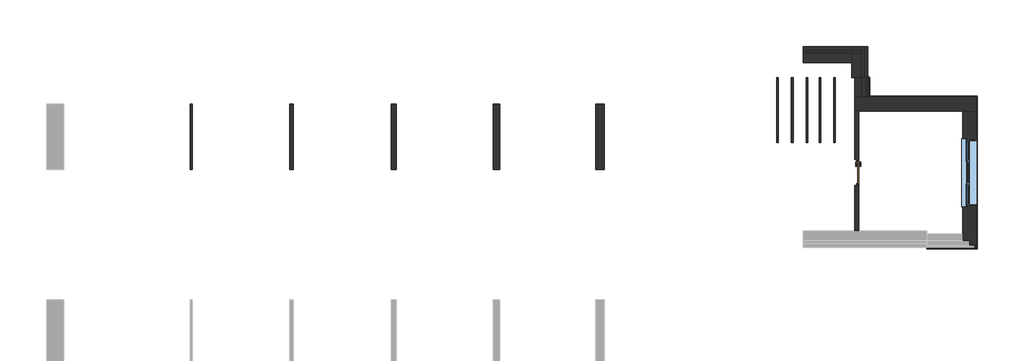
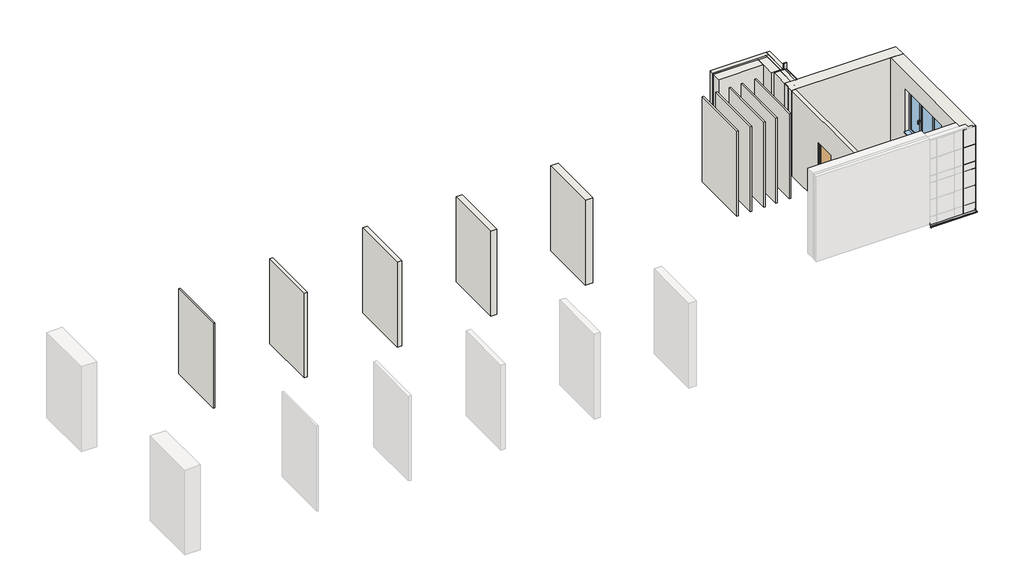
# One storey, part 2 of 2: 16 walls, 6 proxies, 2 windows, 1 door.
"""IFC4 building model written with IfcOpenShell, lengths in millimetres."""

from ifc_helpers import new_model, si_unit, frame, origin, origin_with_axes, place, context, project, spatial, polyline, outline, extrude, faceted_brep, transform, mapped, element, save
from components import generic_models_62172133, generic_models_8cf6980d, generic_models_e644d43c, generic_models_0f7cf230, door_2db64911, window_4d62aef1

model = new_model("IFC4")

# Units and contexts
model_context = context("Model", 3, world=origin())
ifc_project = project(units=[si_unit("LENGTHUNIT", "METRE", prefix="MILLI")], contexts=[model_context])

# Site, building, storey
site = spatial("IfcSite", under=ifc_project)
building = spatial("IfcBuilding", under=site)
storey = spatial("IfcBuildingStorey", under=building, Name="Этаж 1", Elevation=0.0)

# Proxies
placement = place(None, origin())
element("IfcBuildingElementProxy", 1, Name="Откосы_вентфасада : Тип 1", ObjectType="Откосы_вентфасада : Тип 1", at=placement, inside=storey, context=model_context, shape_type="SweptSolid", body=[
    extrude(outline(polyline([(40692.721519, 851.7721519), (40664.721519, 851.7721519), (40664.721519, 826.7721519), (40670.721519, 826.7721519), (40670.721519, 824.7721519), (40662.721519, 824.7721519), (40662.721519, 853.7721519), (40690.721519, 853.7721519), (40690.721519, 879.7721519), (40457.721519, 879.7721519), (40457.721519, 881.7721519), (40692.721519, 881.7721519), (40692.721519, 851.7721519)])), frame((0.0, 0.0, 900.0), z_axis=(0.0, 0.0, 1.0), x_axis=(1.0, 0.0, 0.0)), (0.0, 0.0, 1.0), 1435.0),
    extrude(outline(polyline([(40692.721519, 2891.7721519), (40692.721519, 2861.7721519), (40457.721519, 2861.7721519), (40457.721519, 2863.7721519), (40690.721519, 2863.7721519), (40690.721519, 2889.7721519), (40662.721519, 2889.7721519), (40662.721519, 2918.7721519), (40670.721519, 2918.7721519), (40670.721519, 2916.7721519), (40664.721519, 2916.7721519), (40664.721519, 2891.7721519), (40692.721519, 2891.7721519)])), frame((0.0, 0.0, 900.0), z_axis=(0.0, 0.0, 1.0), x_axis=(1.0, 0.0, 0.0)), (0.0, 0.0, 1.0), 1435.0),
    extrude(outline(polyline([(2365.0, 40692.721519), (2365.0, 40652.721519), (2363.0, 40652.721519), (2363.0, 40690.721519), (2337.0, 40690.721519), (2337.0, 40457.721519), (2335.0, 40457.721519), (2335.0, 40692.721519), (2365.0, 40692.721519)])), frame((0.0, 841.7721519, 0.0), z_axis=(0.0, 1.0, 0.0), x_axis=(0.0, 0.0, 1.0)), (0.0, 0.0, 1.0), 2060.0),
])
element("IfcBuildingElementProxy", 2, Name="Примыкание к другой фасадной системе", ObjectType="Примыкание к другой фасадной системе", at=placement, inside=storey, context=model_context, shape_type="SweptSolid", body=[
    extrude(outline(polyline([(37277.721519, 4811.7721519), (37377.721519, 4811.7721519), (37377.721519, 4791.7721519), (37277.721519, 4791.7721519), (37277.721519, 4811.7721519)])), frame((0.0, 0.0, -70.0), z_axis=(0.0, 0.0, 1.0), x_axis=(1.0, 0.0, 0.0)), (0.0, 0.0, 1.0), 3280.0),
])
generic_models_shape = generic_models_62172133(model_context)
element("IfcBuildingElementProxy", 3, Name="Слив_цоколя : Тип", ObjectType="Слив_цоколя : Тип", at=placement, inside=storey, context=model_context, shape_type="MappedRepresentation", body=[
    mapped(generic_models_shape, transform((37167.721519, 4611.8966005, -5.3480111), x_axis=(0.0, -1.0, 0.0), y_axis=(1.0, 0.0, 0.0), z_axis=(0.0, 0.0, 1.0))),
])
generic_models_2_shape = generic_models_8cf6980d(model_context)
element("IfcBuildingElementProxy", 4, Name="Слив_цоколя : Тип", ObjectType="Слив_цоколя : Тип", at=placement, inside=storey, context=model_context, shape_type="MappedRepresentation", body=[
    mapped(generic_models_2_shape, transform((38901.4446493, 3971.7721519, -5.3948248), x_axis=(1.0, 0.0, 0.0), y_axis=(0.0, 1.0, 0.0), z_axis=(0.0, 0.0, 1.0))),
])
generic_models_3_shape = generic_models_e644d43c(model_context)
element("IfcBuildingElementProxy", 5, Name="Слив_цоколя : Тип", ObjectType="Слив_цоколя : Тип", at=placement, inside=storey, context=model_context, shape_type="MappedRepresentation", body=[
    mapped(generic_models_3_shape, transform((40467.721519, 1996.9755398, -5.3948248), x_axis=(0.0, -1.0, 0.0), y_axis=(1.0, 0.0, 0.0), z_axis=(0.0, 0.0, 1.0))),
])
generic_models_4_shape = generic_models_0f7cf230(model_context)
element("IfcBuildingElementProxy", 6, Name="Слив_цоколя : Тип", ObjectType="Слив_цоколя : Тип", at=placement, inside=storey, context=model_context, shape_type="MappedRepresentation", body=[
    mapped(generic_models_4_shape, transform((40041.1884335, -228.2278481, -5.3480111), x_axis=(-1.0, 0.0, 0.0), y_axis=(0.0, -1.0, 0.0), z_axis=(0.0, 0.0, 1.0))),
])

# Door
door_shape = door_2db64911(model_context)
element("IfcDoor", 7, ObjectType="Дверь однопольная : дерев.внутр.глух 8х21 Л", at=placement, inside=storey, context=model_context, shape_type="MappedRepresentation", body=[
    mapped(door_shape, transform((37017.721519, 1871.7721519, 0.0), x_axis=(0.0, -1.0, 0.0), y_axis=(1.0, 0.0, 0.0), z_axis=(0.0, 0.0, 1.0))),
])

# Walls
element("IfcWall", 8, ObjectType="Утеплитель 50мм (ЭКОВЕР ВЕНТ-ФАСАД)", at=placement, inside=storey, context=model_context, shape_type="SweptSolid", body=[
    extrude(outline(polyline([(16592.721519, 1971.7721519), (16592.721519, 3971.7721519), (16642.721519, 3971.7721519), (16642.721519, 1971.7721519), (16592.721519, 1971.7721519)])), origin_with_axes(), (0.0, 0.0, 1.0), 3000.0),
])
element("IfcWall", 9, ObjectType="Утеплитель 100мм (ЭКОВЕР ВЕНТ-ФАСАД)", at=placement, inside=storey, context=model_context, shape_type="SweptSolid", body=[
    extrude(outline(polyline([(19642.721519, 1971.7721519), (19642.721519, 3971.7721519), (19742.721519, 3971.7721519), (19742.721519, 1971.7721519), (19642.721519, 1971.7721519)])), origin_with_axes(), (0.0, 0.0, 1.0), 3000.0),
])
element("IfcWall", 10, ObjectType="Утеплитель 150мм (ЭКОВЕР ВЕНТ-ФАСАД)", at=placement, inside=storey, context=model_context, shape_type="SweptSolid", body=[
    extrude(outline(polyline([(22742.721519, 1971.7721519), (22742.721519, 3971.7721519), (22892.721519, 3971.7721519), (22892.721519, 1971.7721519), (22742.721519, 1971.7721519)])), origin_with_axes(), (0.0, 0.0, 1.0), 3000.0),
])
element("IfcWall", 11, ObjectType="Утеплитель 200мм (ЭКОВЕР ВЕНТ-ФАСАД)", at=placement, inside=storey, context=model_context, shape_type="SweptSolid", body=[
    extrude(outline(polyline([(25867.721519, 1971.7721519), (25867.721519, 3971.7721519), (26067.721519, 3971.7721519), (26067.721519, 1971.7721519), (25867.721519, 1971.7721519)])), origin_with_axes(), (0.0, 0.0, 1.0), 3000.0),
])
element("IfcWall", 12, ObjectType="Утеплитель 250мм (ЭКОВЕР ВЕНТ-ФАСАД)", at=placement, inside=storey, context=model_context, shape_type="SweptSolid", body=[
    extrude(outline(polyline([(29017.721519, 1971.7721519), (29017.721519, 3971.7721519), (29267.721519, 3971.7721519), (29267.721519, 1971.7721519), (29017.721519, 1971.7721519)])), origin_with_axes(), (0.0, 0.0, 1.0), 3000.0),
])
element("IfcWall", 13, ObjectType="ВЕНТ-ФАСАД 420мм (Изоляция ЭКОВЕР Вент-фасад 150мм)", at=placement, inside=storey, context=model_context, shape_type="Brep", body=[
    faceted_brep([(40677.721519, 3761.7721519, 3000.0), (40257.721519, 3761.7721519, 3000.0), (37077.721519, 3761.7721519, 3000.0), (36957.721519, 3761.7721519, 3000.0), (36957.721519, 3761.7721519, 0.0), (37077.721519, 3761.7721519, 0.0), (37327.7793851, 3761.7721519, 0.0), (37327.7793851, 3761.7721519, 39.4677331), (40177.721519, 3761.7721519, 39.4677331), (40257.721519, 3761.7721519, 39.4677331), (40677.721519, 3761.7721519, 39.4677331), (36957.721519, 4181.7721519, 3000.0), (37377.721519, 4181.7721519, 3000.0), (40677.721519, 4181.7721519, 3000.0), (40677.721519, 4181.7721519, 39.4677331), (40177.721519, 4181.7721519, 39.4740252), (37377.7215189, 4181.7721519, 39.5092614), (36957.721519, 4181.7721519, 39.5145468), (36957.721519, 4131.7721519, 0.0), (37327.7793851, 4131.7721519, 0.0), (36957.721519, 4131.7721519, 39.5145468), (37327.7793851, 4131.7721519, 39.5145468)], [[[0, 1, 2, 3, 4, 5, 6, 7, 8, 9, 10]], [[11, 12, 13, 14, 15, 16, 17]], [[4, 18, 19, 6, 5]], [[3, 2, 1, 0, 13, 12, 11]], [[4, 3, 11, 17, 20, 18]], [[18, 20, 21, 19]], [[20, 17, 16, 15, 14, 10, 9, 8, 7, 21]], [[13, 0, 10, 14]], [[7, 6, 19, 21]]]),
])
element("IfcWall", 14, ObjectType="ВЕНТ-ФАСАД 420мм (Изоляция ЭКОВЕР Вент-фасад 150мм)", at=placement, inside=storey, context=model_context, shape_type="Brep", body=[
    faceted_brep([(40257.721519, -438.2278481, 3000.0), (40257.721519, -18.2278481, 3000.0), (40257.721519, 3761.7721519, 3000.0), (40257.721519, 3761.7721519, 39.4677331), (40257.721519, -18.2278481, 39.4677331), (40257.721519, -438.2278481, 39.4677331), (40257.721519, 821.7721519, 900.0), (40257.721519, 2921.7721519, 900.0), (40257.721519, 2921.7721519, 2400.0), (40257.721519, 821.7721519, 2400.0), (40677.721519, 3761.7721519, 3000.0), (40677.721519, -438.2278481, 3000.0), (40677.721519, -438.2278481, 39.4677331), (40677.721519, 3761.7721519, 39.4677331), (40677.721519, 841.7721519, 2380.0), (40677.721519, 2901.7721519, 2380.0), (40677.721519, 2901.7721519, 900.0), (40677.721519, 841.7721519, 900.0), (40457.721519, 841.7721519, 2380.0), (40457.721519, 2901.7721519, 2380.0), (40457.721519, 2901.7721519, 900.0), (40457.721519, 2921.7721519, 900.0), (40457.721519, 821.7721519, 900.0), (40457.721519, 841.7721519, 900.0), (40457.721519, 821.7721519, 2400.0), (40457.721519, 2921.7721519, 2400.0)], [[[0, 1, 2, 3, 4, 5], [6, 7, 8, 9]], [[10, 11, 12, 13], [14, 15, 16, 17]], [[2, 1, 0, 11, 10]], [[11, 0, 5, 12]], [[2, 10, 13, 3]], [[14, 18, 19, 15]], [[15, 19, 20, 16]], [[16, 20, 21, 7, 6, 22, 23, 17]], [[18, 14, 17, 23]], [[19, 18, 23, 22, 24, 25, 21, 20]], [[7, 21, 25, 8]], [[22, 6, 9, 24]], [[25, 24, 9, 8]], [[5, 4, 3, 13, 12]]]),
])
element("IfcWall", 15, ObjectType="Газобетон 300 Ут 10 Кирпич 120 (520)", at=placement, inside=storey, context=model_context, shape_type="Brep", body=[
    faceted_brep([(37157.721519, 4791.7721519, 50.0), (37237.721519, 4791.7721519, 50.0), (37237.721519, 4791.7721519, 3000.0), (37237.721519, 4791.7721519, 3050.0), (37157.721519, 4791.7721519, 3050.0), (37157.721519, 4791.7721519, 3000.0), (37157.721519, 5621.7721519, 50.0), (37237.721519, 5621.7721519, 50.0), (37237.721519, 5621.7721519, 3050.0), (37157.721519, 5621.7721519, 3050.0), (37237.721519, 5621.7721519, 3000.0), (37157.721519, 5621.7721519, 3000.0)], [[[0, 1, 2, 3, 4, 5]], [[1, 0, 6, 7]], [[4, 3, 8, 9]], [[2, 1, 7, 10, 8, 3]], [[0, 5, 4, 9, 11, 6]], [[7, 6, 11, 9, 8, 10]]]),
    faceted_brep([(37277.721519, 4791.7721519, 50.0), (37277.721519, 4791.7721519, 3000.0), (37277.721519, 4791.7721519, 3050.0), (37237.721519, 4791.7721519, 3050.0), (37237.721519, 4791.7721519, 3000.0), (37237.721519, 4791.7721519, 50.0), (37357.721519, 5741.7721519, 3000.0), (37357.721519, 5741.7721519, 50.0), (37237.721519, 5741.7721519, 50.0), (37237.721519, 5741.7721519, 3000.0), (37237.721519, 5741.7721519, 3050.0), (37357.721519, 5741.7721519, 3050.0), (37357.721519, 4811.7721519, 3050.0), (37357.721519, 4811.7721519, 3000.0), (37357.721519, 4811.7721519, 50.0), (37277.721519, 4811.7721519, 50.0), (37277.721519, 4811.7721519, 3050.0), (37277.721519, 4811.7721519, 3000.0)], [[[0, 1, 2, 3, 4, 5]], [[6, 7, 8, 9, 10, 11]], [[7, 6, 11, 12, 13, 14]], [[8, 7, 14, 15, 0, 5]], [[12, 11, 10, 3, 2, 16]], [[14, 13, 12, 16, 17, 15]], [[1, 0, 15, 17, 16, 2]], [[9, 8, 5, 4, 3, 10]]]),
    faceted_brep([(36857.721519, 4791.7721519, 3000.0), (36857.721519, 4791.7721519, 50.0), (37157.721519, 4791.7721519, 50.0), (37157.721519, 4791.7721519, 3000.0), (37157.721519, 4791.7721519, 3050.0), (36857.721519, 4791.7721519, 3050.0), (36857.721519, 5541.7721519, 50.0), (36857.721519, 5241.7721519, 50.0), (36857.721519, 5241.7721519, 3050.0), (36857.721519, 5541.7721519, 3050.0), (36857.721519, 5541.7721519, 3000.0), (37157.721519, 5541.7721519, 3050.0), (37157.721519, 5541.7721519, 3000.0), (37157.721519, 5541.7721519, 50.0)], [[[0, 1, 2, 3, 4, 5]], [[6, 7, 1, 0, 5, 8, 9, 10]], [[6, 10, 9, 11, 12, 13]], [[7, 6, 13, 2, 1]], [[8, 5, 4, 11, 9]], [[3, 2, 13, 12, 11, 4]]]),
])
element("IfcWall", 16, ObjectType="Кирпич 120", at=placement, inside=storey, context=model_context, shape_type="Brep", body=[
    faceted_brep([(36957.721519, 3761.7721519, 0.0), (36957.721519, 3761.7721519, 50.0), (36957.721519, 3761.7721519, 3000.0), (37077.721519, 3761.7721519, 3000.0), (37077.721519, 3761.7721519, 50.0), (37077.721519, 3761.7721519, 0.0), (36957.721519, 2271.7721519, 0.0), (37077.721519, 2271.7721519, 0.0), (36957.721519, 2271.7721519, 50.0), (37077.721519, 2271.7721519, 50.0), (37077.721519, 2271.7721519, 2100.0), (36957.721519, 2271.7721519, 2100.0), (36957.721519, 1471.7721519, 0.0), (36957.721519, 1471.7721519, 50.0), (36957.721519, 1471.7721519, 2100.0), (37077.721519, 1471.7721519, 2100.0), (37077.721519, 1471.7721519, 50.0), (37077.721519, 1471.7721519, 0.0), (36957.721519, 81.7721519, 0.0), (37077.721519, 81.7721519, 0.0), (36957.721519, 81.7721519, 50.0), (37077.721519, 81.7721519, 50.0), (37077.721519, 81.7721519, 3000.0), (36957.721519, 81.7721519, 3000.0)], [[[0, 1, 2, 3, 4, 5]], [[6, 0, 5, 7]], [[8, 6, 7, 9, 10, 11]], [[12, 13, 14, 15, 16, 17]], [[18, 12, 17, 19]], [[20, 18, 19, 21, 22, 23]], [[21, 19, 17, 16, 15, 10, 9, 7, 5, 4, 3, 22]], [[2, 23, 22, 3]], [[14, 11, 10, 15]], [[13, 12, 18, 20, 23, 2, 1, 0, 6, 8, 11, 14]]]),
])
element("IfcWall", 17, ObjectType="Газобетон 300 Ут 10 Кирпич 120 (520)", at=placement, inside=storey, context=model_context, shape_type="SweptSolid", body=[
    extrude(outline(polyline([(35367.721519, 5741.7721519), (37237.721519, 5741.7721519), (37237.721519, 5621.7721519), (35367.721519, 5621.7721519), (35367.721519, 5741.7721519)])), frame((0.0, 0.0, 50.0), z_axis=(0.0, 0.0, 1.0), x_axis=(1.0, 0.0, 0.0)), (0.0, 0.0, 1.0), 3000.0),
    extrude(outline(polyline([(36857.721519, 5241.7721519), (35367.721519, 5241.7721519), (35367.721519, 5541.7721519), (36857.721519, 5541.7721519), (36857.721519, 5241.7721519)])), frame((0.0, 0.0, 50.0), z_axis=(0.0, 0.0, 1.0), x_axis=(1.0, 0.0, 0.0)), (0.0, 0.0, 1.0), 3000.0),
    extrude(outline(polyline([(37157.721519, 5621.7721519), (37157.721519, 5541.7721519), (35367.721519, 5541.7721519), (35367.721519, 5621.7721519), (37157.721519, 5621.7721519)])), frame((0.0, 0.0, 50.0), z_axis=(0.0, 0.0, 1.0), x_axis=(1.0, 0.0, 0.0)), (0.0, 0.0, 1.0), 3000.0),
])
element("IfcWall", 18, ObjectType="ВЕНТ-ФАСАД 420мм (Изоляция ЭКОВЕР Вент-фасад 150мм)", at=placement, inside=storey, context=model_context, shape_type="SolidModel", body=[
    faceted_brep([(37307.721519, 4791.7721519, 39.5145468), (37357.721519, 4791.7721519, 39.5145468), (37357.721519, 4161.7721519, 39.5145468), (37307.721519, 4161.7721519, 39.5145468), (37357.721519, 4791.7721519, 50.0), (37307.721519, 4791.7721519, 50.0), (37307.721519, 4791.7721519, 3000.0), (37357.721519, 4791.7721519, 3000.0), (37307.721519, 4161.7721519, 3000.0), (37357.721519, 4161.7721519, 3000.0), (37307.721519, 4161.7721519, 50.0), (37357.721519, 4161.7721519, 50.0)], [[[0, 1, 2, 3]], [[4, 1, 0, 5, 6, 7]], [[8, 9, 7, 6]], [[5, 0, 3, 10, 8, 6]], [[1, 4, 7, 9, 11, 2]], [[10, 3, 2, 11, 9, 8]]]),
    faceted_brep([(36957.721519, 4791.7721519, 39.5145468), (36957.721519, 4791.7721519, 50.0), (36957.721519, 4791.7721519, 3000.0), (37157.721519, 4791.7721519, 3000.0), (37157.721519, 4791.7721519, 50.0), (37157.721519, 4791.7721519, 39.5145468), (36957.721519, 3961.7721519, 39.5145468), (36957.721519, 3961.7721519, 50.0), (36957.721519, 3961.7721519, 3000.0), (37157.721519, 3961.7721519, 3000.0), (37157.721519, 3961.7721519, 39.5145468), (37157.721519, 3961.7721519, 50.0)], [[[0, 1, 2, 3, 4, 5]], [[1, 0, 6, 7, 8, 2]], [[2, 8, 9, 3]], [[0, 5, 10, 6]], [[5, 4, 3, 9, 11, 10]], [[7, 6, 10, 11, 9, 8]]]),
    faceted_brep([(37157.721519, 4791.7721519, 39.5145468), (37307.721519, 4791.7721519, 39.5145468), (37307.721519, 4111.7721519, 39.5145468), (37157.721519, 4111.7721519, 39.5145468), (37307.721519, 4791.7721519, 50.0), (37157.721519, 4791.7721519, 50.0), (37157.721519, 4791.7721519, 3000.0), (37307.721519, 4791.7721519, 3000.0), (37157.721519, 4111.7721519, 3000.0), (37307.721519, 4111.7721519, 3000.0), (37307.721519, 4111.7721519, 50.0), (37157.721519, 4111.7721519, 50.0)], [[[0, 1, 2, 3]], [[4, 1, 0, 5, 6, 7]], [[8, 9, 7, 6]], [[1, 4, 7, 9, 10, 2]], [[5, 0, 3, 11, 8, 6]], [[11, 3, 2, 10, 9, 8]]]),
    extrude(outline(polyline([(37377.721519, 4181.7721519), (37357.721519, 4181.7721519), (37357.721519, 4791.7721519), (37377.721519, 4791.7721519), (37377.721519, 4181.7721519)])), frame((0.0, 0.0, 2375.0), z_axis=(0.0, 0.0, 1.0), x_axis=(1.0, 0.0, 0.0)), (0.0, 0.0, 1.0), 625.0),
    extrude(outline(polyline([(37377.721519, 4181.7721519), (37357.721519, 4181.7721519), (37357.721519, 4791.7721519), (37377.721519, 4791.7721519), (37377.721519, 4181.7721519)])), frame((0.0, 0.0, 330.0), z_axis=(0.0, 0.0, 1.0), x_axis=(1.0, 0.0, 0.0)), (0.0, 0.0, 1.0), 590.0),
    extrude(outline(polyline([(37377.721519, 4181.7721519), (37357.721519, 4181.7721519), (37357.721519, 4791.7721519), (37377.721519, 4791.7721519), (37377.721519, 4181.7721519)])), frame((0.0, 0.0, 930.0), z_axis=(0.0, 0.0, 1.0), x_axis=(1.0, 0.0, 0.0)), (0.0, 0.0, 1.0), 590.0),
    extrude(outline(polyline([(37377.721519, 4181.7721519), (37357.721519, 4181.7721519), (37357.721519, 4791.7721519), (37377.721519, 4791.7721519), (37377.721519, 4181.7721519)])), frame((0.0, 0.0, 1775.0), z_axis=(0.0, 0.0, 1.0), x_axis=(1.0, 0.0, 0.0)), (0.0, 0.0, 1.0), 590.0),
    extrude(outline(polyline([(37377.721519, 4181.7721519), (37357.721519, 4181.7721519), (37357.721519, 4791.7721519), (37377.721519, 4791.7721519), (37377.721519, 4181.7721519)])), frame((0.0, 0.0, 1530.0), z_axis=(0.0, 0.0, 1.0), x_axis=(1.0, 0.0, 0.0)), (0.0, 0.0, 1.0), 235.0),
    faceted_brep([(37357.721519, 4181.7721519, 320.0), (37377.721519, 4181.7721519, 320.0), (37377.721519, 4791.7721519, 320.0), (37357.721519, 4791.7721519, 320.0), (37377.721519, 4181.7721519, 39.5145468), (37377.721519, 4181.7721519, 50.0), (37357.721519, 4181.7721519, 50.0), (37357.721519, 4181.7721519, 39.5145468), (37357.721519, 4791.7721519, 39.5145468), (37377.721519, 4791.7721519, 39.5145468), (37357.721519, 4791.7721519, 50.0), (37377.721519, 4791.7721519, 50.0)], [[[0, 1, 2, 3]], [[4, 5, 1, 0, 6, 7]], [[4, 7, 8, 9]], [[9, 8, 10, 3, 2, 11]], [[5, 4, 9, 11, 2, 1]], [[7, 6, 0, 3, 10, 8]]]),
])
element("IfcWall", 19, ObjectType="Утеплитель 50мм (ЭКОВЕР ВЕНТ-ФАСАД)", at=placement, inside=storey, context=model_context, shape_type="SweptSolid", body=[
    extrude(outline(polyline([(34560.8018909, 2791.7721519), (34560.8018909, 4791.7721519), (34610.8018909, 4791.7721519), (34610.8018909, 2791.7721519), (34560.8018909, 2791.7721519)])), origin_with_axes(), (0.0, 0.0, 1.0), 3000.0),
])
element("IfcWall", 20, ObjectType="Утеплитель 50мм (ЭКОВЕР ВЕНТ-ФАСАД  70)", at=placement, inside=storey, context=model_context, shape_type="SweptSolid", body=[
    extrude(outline(polyline([(35010.8018909, 2791.7721519), (35010.8018909, 4791.7721519), (35060.8018909, 4791.7721519), (35060.8018909, 2791.7721519), (35010.8018909, 2791.7721519)])), origin_with_axes(), (0.0, 0.0, 1.0), 3000.0),
])
element("IfcWall", 21, ObjectType="Утеплитель 50мм (ЭКОВЕР ВЕНТ-ФАСАД  80)", at=placement, inside=storey, context=model_context, shape_type="SweptSolid", body=[
    extrude(outline(polyline([(35460.8018909, 2791.7721519), (35460.8018909, 4791.7721519), (35510.8018909, 4791.7721519), (35510.8018909, 2791.7721519), (35460.8018909, 2791.7721519)])), origin_with_axes(), (0.0, 0.0, 1.0), 3000.0),
])
element("IfcWall", 22, ObjectType="Утеплитель 50мм (ЭКОВЕР ВЕНТ-ФАСАД  90)", at=placement, inside=storey, context=model_context, shape_type="SweptSolid", body=[
    extrude(outline(polyline([(35860.8018909, 2791.7721519), (35860.8018909, 4791.7721519), (35910.8018909, 4791.7721519), (35910.8018909, 2791.7721519), (35860.8018909, 2791.7721519)])), origin_with_axes(), (0.0, 0.0, 1.0), 3000.0),
])
element("IfcWall", 23, ObjectType="Утеплитель 50мм (ЭКОВЕР ВЕНТ-ФАСАД  120)", at=placement, inside=storey, context=model_context, shape_type="SweptSolid", body=[
    extrude(outline(polyline([(36310.8018909, 2791.7721519), (36310.8018909, 4791.7721519), (36360.8018909, 4791.7721519), (36360.8018909, 2791.7721519), (36310.8018909, 2791.7721519)])), origin_with_axes(), (0.0, 0.0, 1.0), 3000.0),
])

# Windows
element("IfcWindow", 24, ObjectType="Окно_3створки : 2060х1460 (створка и глухое)", at=placement, inside=storey, context=model_context, shape_type="SolidModel", body=[
    extrude(outline(polyline([(40407.721519, 1568.4388186), (40407.721519, 2175.1054852), (40437.721519, 2175.1054852), (40437.721519, 1568.4388186), (40407.721519, 1568.4388186)])), frame((0.0, 0.0, 980.0), z_axis=(0.0, 0.0, 1.0), x_axis=(1.0, 0.0, 0.0)), (0.0, 0.0, 1.0), 1340.0),
    extrude(outline(polyline([(40387.721519, 951.7721519), (40387.721519, 1438.4388186), (40417.721519, 1438.4388186), (40417.721519, 951.7721519), (40387.721519, 951.7721519)])), frame((0.0, 0.0, 1030.0), z_axis=(0.0, 0.0, 1.0), x_axis=(1.0, 0.0, 0.0)), (0.0, 0.0, 1.0), 1240.0),
    faceted_brep([(40387.721519, 1528.4388186, 940.0), (40387.721519, 1528.4388186, 2360.0), (40387.721519, 861.7721519, 2360.0), (40387.721519, 861.7721519, 940.0), (40387.721519, 901.7721519, 980.0), (40387.721519, 901.7721519, 2320.0), (40387.721519, 1488.4388186, 2320.0), (40387.721519, 1488.4388186, 980.0), (40367.721519, 1528.4388186, 2360.0), (40367.721519, 1528.4388186, 940.0), (40367.721519, 861.7721519, 940.0), (40367.721519, 861.7721519, 2360.0), (40367.721519, 1438.4388186, 1030.0), (40367.721519, 1438.4388186, 2270.0), (40367.721519, 951.7721519, 2270.0), (40367.721519, 951.7721519, 1030.0), (40437.721519, 1438.4388186, 1030.0), (40437.721519, 951.7721519, 1030.0), (40437.721519, 951.7721519, 2270.0), (40437.721519, 1438.4388186, 2270.0), (40437.721519, 1488.4388186, 980.0), (40437.721519, 1488.4388186, 2320.0), (40437.721519, 901.7721519, 2320.0), (40437.721519, 901.7721519, 980.0)], [[[0, 1, 2, 3], [4, 5, 6, 7]], [[8, 1, 0, 9]], [[10, 11, 8, 9], [12, 13, 14, 15]], [[9, 0, 3, 10]], [[16, 12, 15, 17]], [[10, 3, 2, 11]], [[17, 15, 14, 18]], [[11, 2, 1, 8]], [[18, 14, 13, 19]], [[20, 21, 22, 23], [17, 18, 19, 16]], [[19, 13, 12, 16]], [[7, 20, 23, 4]], [[4, 23, 22, 5]], [[5, 22, 21, 6]], [[6, 21, 20, 7]]]),
    faceted_brep([(40354.721519, 1458.4388186, 1687.5), (40354.721519, 1488.4388186, 1687.5), (40354.721519, 1488.4388186, 1612.5), (40354.721519, 1458.4388186, 1612.5), (40354.721519, 1481.4388186, 1665.0), (40354.721519, 1465.4388186, 1665.0), (40354.721519, 1465.4388186, 1635.0), (40354.721519, 1481.4388186, 1635.0), (40367.721519, 1458.4388186, 1687.5), (40367.721519, 1458.4388186, 1612.5), (40367.721519, 1488.4388186, 1612.5), (40367.721519, 1488.4388186, 1687.5), (40314.721519, 1465.4388186, 1659.0), (40314.721519, 1481.4388186, 1659.0), (40314.721519, 1481.4388186, 1540.0), (40314.721519, 1465.4388186, 1540.0), (40324.721519, 1481.4388186, 1630.5), (40324.721519, 1481.4388186, 1550.0), (40329.721519, 1481.4388186, 1550.0), (40329.721519, 1481.4388186, 1540.0), (40324.721519, 1465.4388186, 1630.5), (40329.721519, 1465.4388186, 1540.0), (40329.721519, 1465.4388186, 1550.0), (40324.721519, 1465.4388186, 1550.0)], [[[0, 1, 2, 3], [4, 5, 6, 7]], [[8, 9, 10, 11]], [[1, 0, 8, 11]], [[2, 1, 11, 10]], [[3, 2, 10, 9]], [[0, 3, 9, 8]], [[12, 13, 14, 15]], [[13, 12, 5, 4]], [[14, 13, 4, 7, 16, 17, 18, 19]], [[7, 6, 20, 16]], [[5, 12, 15, 21, 22, 23, 20, 6]], [[23, 17, 16, 20]], [[22, 21, 19, 18]], [[23, 22, 18, 17]], [[21, 15, 14, 19]]]),
    extrude(outline(polyline([(40387.721519, 2305.1054852), (40387.721519, 2791.7721519), (40417.721519, 2791.7721519), (40417.721519, 2305.1054852), (40387.721519, 2305.1054852)])), frame((0.0, 0.0, 1030.0), z_axis=(0.0, 0.0, 1.0), x_axis=(1.0, 0.0, 0.0)), (0.0, 0.0, 1.0), 1240.0),
    faceted_brep([(40367.721519, 2215.1054852, 940.0), (40387.721519, 2215.1054852, 940.0), (40387.721519, 2215.1054852, 2360.0), (40367.721519, 2215.1054852, 2360.0), (40437.721519, 2841.7721519, 980.0), (40437.721519, 2841.7721519, 2320.0), (40437.721519, 2255.1054852, 2320.0), (40437.721519, 2255.1054852, 980.0), (40437.721519, 2305.1054852, 1030.0), (40437.721519, 2305.1054852, 2270.0), (40437.721519, 2791.7721519, 2270.0), (40437.721519, 2791.7721519, 1030.0), (40367.721519, 2881.7721519, 2360.0), (40387.721519, 2881.7721519, 2360.0), (40387.721519, 2881.7721519, 940.0), (40367.721519, 2881.7721519, 940.0), (40367.721519, 2791.7721519, 1030.0), (40367.721519, 2791.7721519, 2270.0), (40367.721519, 2305.1054852, 2270.0), (40367.721519, 2305.1054852, 1030.0), (40387.721519, 2841.7721519, 980.0), (40387.721519, 2255.1054852, 980.0), (40387.721519, 2255.1054852, 2320.0), (40387.721519, 2841.7721519, 2320.0)], [[[0, 1, 2, 3]], [[4, 5, 6, 7], [8, 9, 10, 11]], [[12, 13, 14, 15]], [[0, 3, 12, 15], [16, 17, 18, 19]], [[15, 14, 1, 0]], [[11, 16, 19, 8]], [[8, 19, 18, 9]], [[3, 2, 13, 12]], [[9, 18, 17, 10]], [[10, 17, 16, 11]], [[20, 4, 7, 21]], [[21, 7, 6, 22]], [[22, 6, 5, 23]], [[14, 13, 2, 1], [21, 22, 23, 20]], [[23, 5, 4, 20]]]),
    faceted_brep([(40367.721519, 2255.1054852, 1687.5), (40367.721519, 2255.1054852, 1612.5), (40367.721519, 2285.1054852, 1612.5), (40367.721519, 2285.1054852, 1687.5), (40354.721519, 2255.1054852, 1687.5), (40354.721519, 2255.1054852, 1612.5), (40314.721519, 2278.1054852, 1540.0), (40314.721519, 2278.1054852, 1659.0), (40354.721519, 2278.1054852, 1665.0), (40354.721519, 2278.1054852, 1635.0), (40324.721519, 2278.1054852, 1630.5), (40324.721519, 2278.1054852, 1550.0), (40329.721519, 2278.1054852, 1550.0), (40329.721519, 2278.1054852, 1540.0), (40354.721519, 2285.1054852, 1687.5), (40354.721519, 2285.1054852, 1612.5), (40354.721519, 2262.1054852, 1665.0), (40354.721519, 2262.1054852, 1635.0), (40314.721519, 2262.1054852, 1659.0), (40314.721519, 2262.1054852, 1540.0), (40324.721519, 2262.1054852, 1630.5), (40329.721519, 2262.1054852, 1540.0), (40329.721519, 2262.1054852, 1550.0), (40324.721519, 2262.1054852, 1550.0)], [[[0, 1, 2, 3]], [[4, 5, 1, 0]], [[6, 7, 8, 9, 10, 11, 12, 13]], [[4, 14, 15, 5], [8, 16, 17, 9]], [[14, 4, 0, 3]], [[15, 14, 3, 2]], [[5, 15, 2, 1]], [[18, 7, 6, 19]], [[7, 18, 16, 8]], [[9, 17, 20, 10]], [[16, 18, 19, 21, 22, 23, 20, 17]], [[23, 11, 10, 20]], [[22, 21, 13, 12]], [[23, 22, 12, 11]], [[21, 19, 6, 13]]]),
    extrude(outline(polyline([(821.7721519, 2400.0), (2921.7721519, 2400.0), (2921.7721519, 900.0), (821.7721519, 900.0), (821.7721519, 2400.0)]), holes=[polyline([(2901.7721519, 920.0), (2901.7721519, 2380.0), (841.7721519, 2380.0), (841.7721519, 920.0), (2901.7721519, 920.0)])]), frame((40387.721519, 0.0, 0.0), z_axis=(1.0, 0.0, 0.0), x_axis=(0.0, 1.0, 0.0)), (0.0, 0.0, 1.0), 70.0),
    extrude(outline(polyline([(841.7721519, 920.0), (841.7721519, 2380.0), (2901.7721519, 2380.0), (2901.7721519, 920.0), (841.7721519, 920.0)]), holes=[polyline([(901.7721519, 2320.0), (901.7721519, 980.0), (1488.4388186, 980.0), (1488.4388186, 2320.0), (901.7721519, 2320.0)]), polyline([(2841.7721519, 980.0), (2841.7721519, 2320.0), (2255.1054852, 2320.0), (2255.1054852, 980.0), (2841.7721519, 980.0)]), polyline([(1568.4388186, 980.0), (2175.1054852, 980.0), (2175.1054852, 2320.0), (1568.4388186, 2320.0), (1568.4388186, 980.0)])]), frame((40387.721519, 0.0, 0.0), z_axis=(1.0, 0.0, 0.0), x_axis=(0.0, 1.0, 0.0)), (0.0, 0.0, 1.0), 70.0),
    extrude(outline(polyline([(900.0, 40697.721519), (925.0, 40457.721519), (900.0, 40457.721519), (900.0, 40697.721519)])), frame((0.0, 841.7721519, 0.0), z_axis=(0.0, 1.0, 0.0), x_axis=(0.0, 0.0, 1.0)), (0.0, 0.0, 1.0), 2060.0),
])
window_shape = window_4d62aef1(model_context)
element("IfcWindow", 25, ObjectType="Окна_Подоконник : ПВХ", at=placement, inside=storey, context=model_context, shape_type="MappedRepresentation", body=[
    mapped(window_shape, transform((40387.721519, 1871.7721519, 900.0), x_axis=(0.0, -1.0, 0.0), y_axis=(1.0, 0.0, 0.0), z_axis=(0.0, 0.0, 1.0))),
])

save(model, "model.ifc")
